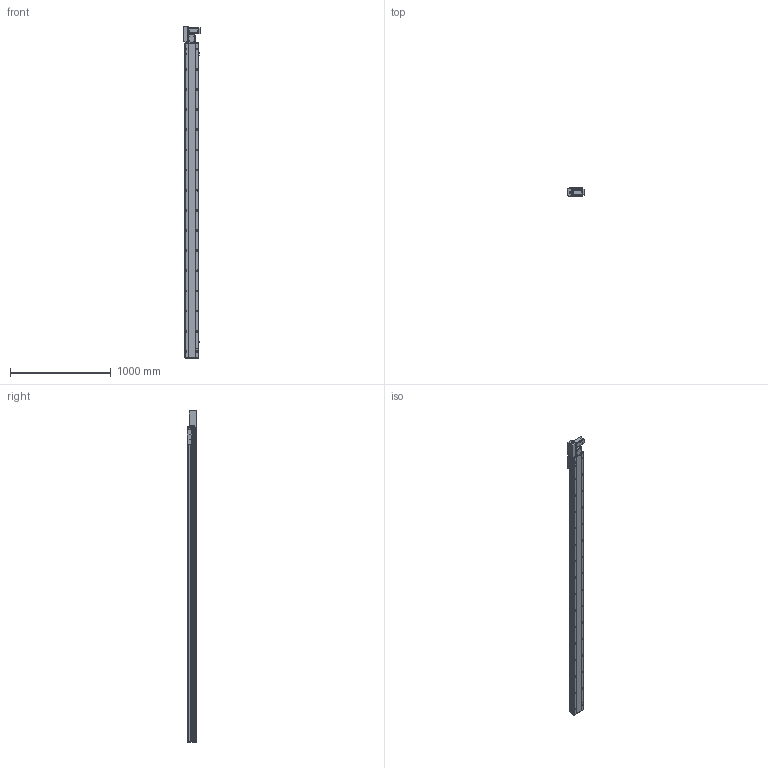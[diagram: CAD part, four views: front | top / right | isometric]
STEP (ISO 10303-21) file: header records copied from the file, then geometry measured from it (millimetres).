
FILE_DESCRIPTION (( 'STEP AP214' ), '1' );
FILE_NAME ('TPT14M-L40-2850-L-T40-C4.STEP', '2023-03-07T00:45:31', ( '' ), ( '' ), 'SwSTEP 2.0', 'SolidWorks 2020', '' );
FILE_SCHEMA (( 'AUTOMOTIVE_DESIGN' ));
Length unit declared in the file: millimetre
Products named in the file (9): hexagon head bolts-full thread gb_GB_FASTENER_BOLT_STBAB A M5X16-N; 葩璃 pm-t65-672^TPT14M-L40-L-T40-C4; 葩璃 侂狟400W^TPT14M-L40-L-T40-C4; 葩璃 TPT14-L-007 々湍釱MZ-169x88^TPT14M-L40-L-T40-C4_YTB14M; 葩璃 TPT14-L-002 奻裔MZ-135-05^TPT14M-L40-L-T40-C4; 葩璃 TPT14-L-009 萇儂啣^TPT14M-L40-L-T40-C4_400W; TPT14M-L40-2850-L-T40-C4; 葩璃 TPT14-L-005 賑釱MZ-135-07^TPT14M-L40-L-T40-C4; 葩璃 TPT14-L-001 菁釱MZ-135-01^TPT14M-L40-L-T40-C4
Assembly tree (10 placements, depth 2):
  TPT14M-L40-2850-L-T40-C4
    葩璃 TPT14-L-001 菁釱MZ-135-01^TPT14M-L40-L-T40-C4
    葩璃 TPT14-L-002 奻裔MZ-135-05^TPT14M-L40-L-T40-C4
    葩璃 TPT14-L-005 賑釱MZ-135-07^TPT14M-L40-L-T40-C4
    葩璃 TPT14-L-007 々湍釱MZ-169x88^TPT14M-L40-L-T40-C4_YTB14M
    葩璃 TPT14-L-009 萇儂啣^TPT14M-L40-L-T40-C4_400W
    葩璃 pm-t65-672^TPT14M-L40-L-T40-C4  x3
    葩璃 侂狟400W^TPT14M-L40-L-T40-C4
    hexagon head bolts-full thread gb_GB_FASTENER_BOLT_STBAB A M5X16-N
Bounding box: 170.5 x 93 x 3295.15 mm (x, y, z)
Volume: 19307331.4 mm3; surface area: 2737281.4 mm2
Topology: 18 solids, 18 shells, 1602 faces, 4169 edges, 2644 vertices
Faces by surface type: plane 786, cylinder 612, cone 178, bspline 26
Entity records: 44180 total; most frequent: CARTESIAN_POINT 8006, DIRECTION 7364, ORIENTED_EDGE 6826, EDGE_CURVE 3413, AXIS2_PLACEMENT_3D 2658, VERTEX_POINT 2220, VECTOR 2048, LINE 2048
